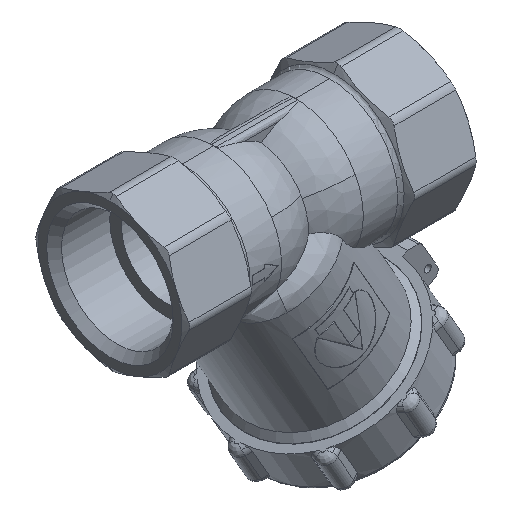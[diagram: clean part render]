
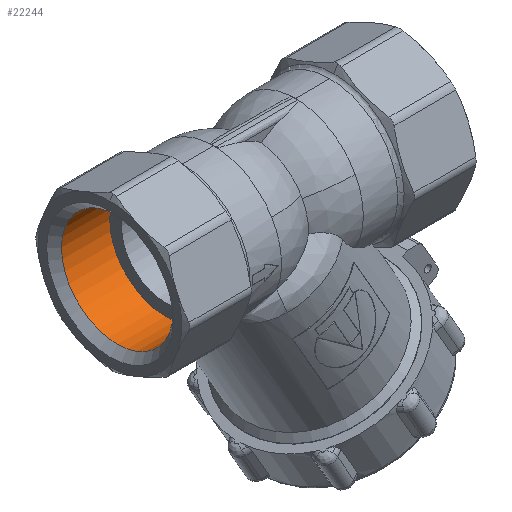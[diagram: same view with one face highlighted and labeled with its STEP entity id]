
A CAD part, isometric view. The second image highlights one B-rep face of the part: STEP entity #22244.
In plain terms, the highlighted cylindrical face has radius 12.05 mm (diameter 24.1 mm), a full revolution.
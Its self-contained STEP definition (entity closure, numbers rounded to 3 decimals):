
#22165=CARTESIAN_POINT('',(0.001,0.,-12.05));
#22166=VERTEX_POINT('',#22165);
#22167=CARTESIAN_POINT('',(0.001,0.,0.));
#22168=DIRECTION('',(1.,0.,-0.));
#22169=DIRECTION('',(-0.,0.,-1.));
#22170=AXIS2_PLACEMENT_3D('',#22167,#22168,#22169);
#22171=CIRCLE('',#22170,12.05);
#22172=EDGE_CURVE('',#22166,#22166,#22171,.T.);
#22187=CARTESIAN_POINT('',(-10.399,0.,12.05));
#22188=VERTEX_POINT('',#22187);
#22197=CARTESIAN_POINT('',(-10.399,0.,-12.05));
#22198=VERTEX_POINT('',#22197);
#22199=CARTESIAN_POINT('',(-10.399,0.,0.));
#22200=DIRECTION('',(1.,0.,0.));
#22201=DIRECTION('',(-0.,1.,0.));
#22202=AXIS2_PLACEMENT_3D('',#22199,#22200,#22201);
#22203=CIRCLE('',#22202,12.05);
#22204=EDGE_CURVE('',#22188,#22198,#22203,.T.);
#22206=CARTESIAN_POINT('',(-10.399,12.05,-0.));
#22207=VERTEX_POINT('',#22206);
#22208=CARTESIAN_POINT('',(-10.399,0.,0.));
#22209=DIRECTION('',(1.,0.,0.));
#22210=DIRECTION('',(-0.,1.,0.));
#22211=AXIS2_PLACEMENT_3D('',#22208,#22209,#22210);
#22212=CIRCLE('',#22211,12.05);
#22213=EDGE_CURVE('',#22198,#22207,#22212,.T.);
#22215=CARTESIAN_POINT('',(-10.399,0.,0.));
#22216=DIRECTION('',(1.,0.,0.));
#22217=DIRECTION('',(-0.,1.,0.));
#22218=AXIS2_PLACEMENT_3D('',#22215,#22216,#22217);
#22219=CIRCLE('',#22218,12.05);
#22220=EDGE_CURVE('',#22207,#22188,#22219,.T.);
#22226=CARTESIAN_POINT('',(-11.999,0.,0.));
#22227=DIRECTION('',(1.,0.,-0.));
#22228=DIRECTION('',(-0.,0.,-1.));
#22229=AXIS2_PLACEMENT_3D('',#22226,#22227,#22228);
#22230=CYLINDRICAL_SURFACE('',#22229,12.05);
#22231=CARTESIAN_POINT('',(0.001,0.,-12.05));
#22232=DIRECTION('',(-1.,-0.,0.));
#22233=VECTOR('',#22232,10.4);
#22234=LINE('',#22231,#22233);
#22235=EDGE_CURVE('',#22166,#22198,#22234,.T.);
#22236=ORIENTED_EDGE('',*,*,#22235,.F.);
#22237=ORIENTED_EDGE('',*,*,#22172,.T.);
#22238=ORIENTED_EDGE('',*,*,#22235,.T.);
#22239=ORIENTED_EDGE('',*,*,#22204,.F.);
#22240=ORIENTED_EDGE('',*,*,#22220,.F.);
#22241=ORIENTED_EDGE('',*,*,#22213,.F.);
#22242=EDGE_LOOP('',(#22236,#22237,#22238,#22239,#22240,#22241));
#22243=FACE_BOUND('',#22242,.T.);
#22244=ADVANCED_FACE('',(#22243),#22230,.F.);
